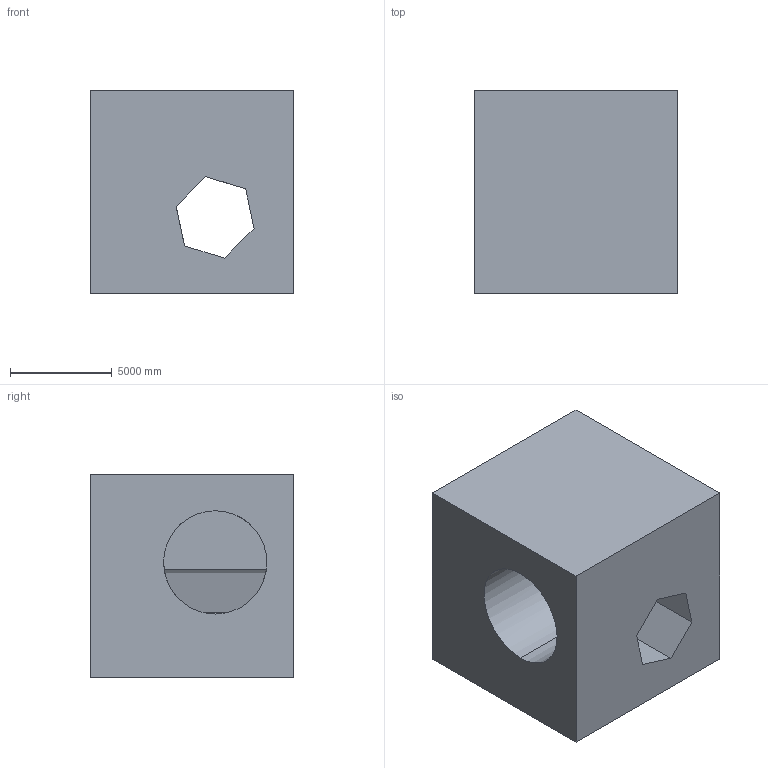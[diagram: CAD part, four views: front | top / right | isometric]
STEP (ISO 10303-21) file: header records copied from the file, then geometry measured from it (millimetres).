
FILE_DESCRIPTION (( 'STEP AP203' ), '1' );
FILE_NAME ('55.STEP', '2022-07-28T13:30:21', ( 'user' ), ( '' ), 'SwSTEP 2.0', 'SolidWorks 2021', '' );
FILE_SCHEMA (( 'CONFIG_CONTROL_DESIGN' ));
Length unit declared in the file: centimetre
Products named in the file (1): 55
Bounding box: 10000 x 10000 x 10000 mm (x, y, z)
Volume: 770780916092.5 mm3; surface area: 764940590.7 mm2
Topology: 1 solids, 1 shells, 16 faces, 45 edges, 30 vertices
Faces by surface type: plane 14, cylinder 2
Entity records: 598 total; most frequent: CARTESIAN_POINT 110, ORIENTED_EDGE 90, DIRECTION 77, EDGE_CURVE 45, VECTOR 35, LINE 35, VERTEX_POINT 30, AXIS2_PLACEMENT_3D 21
